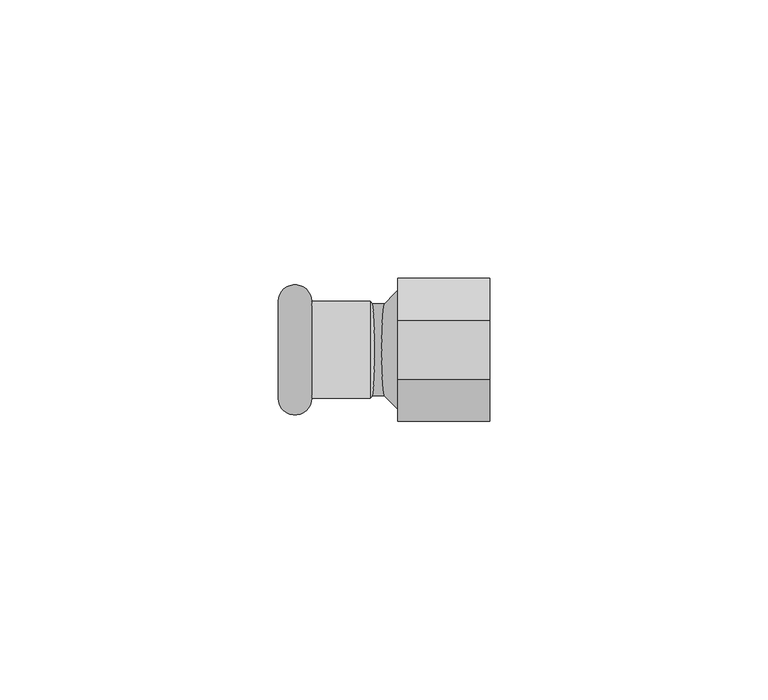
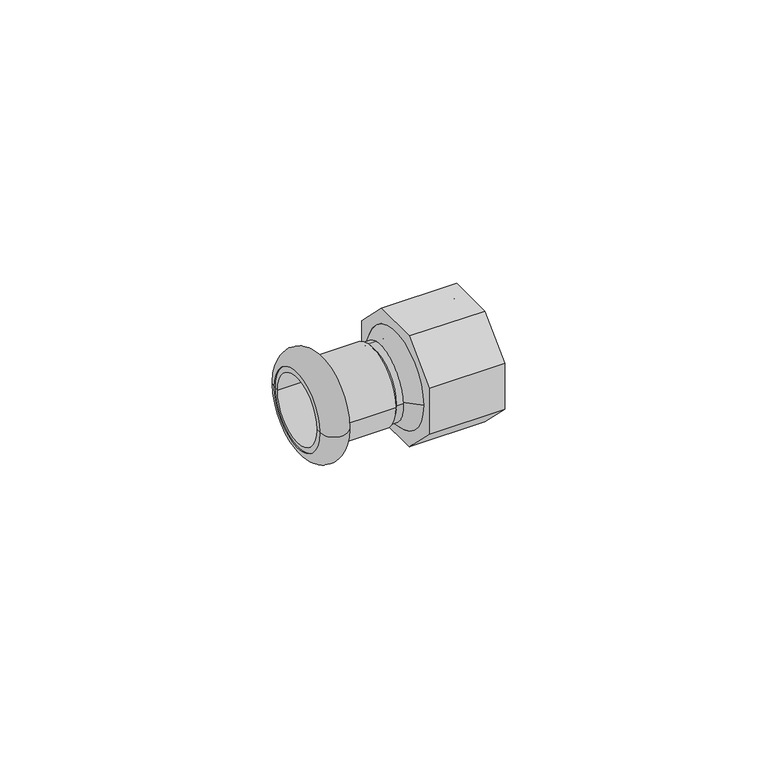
"""IFC4 building model written with IfcOpenShell, lengths in millimetres: pipe fitting geometry."""

from ifc_helpers import new_model, si_unit, point, frame, origin, place, context, project, spatial, polyline, circle_curve, ellipse_curve, trimmed, source, transform, mapped, element, save
from ifc_brep_helpers import plane_surface, cylinder_surface, revolved_surface, advanced_brep


def pipe_fitting_cea77ad7(model_context):
    return source(origin(), model_context, "Body", "AdvancedBrep", [
        advanced_brep(
        [(-19.0, 8.7, 0.0), (-19.0, -8.7, 0.0), (-12.9987073, -8.7, 0.0), (-12.9987073, 8.7, 0.0)],
        [
            (0, 1, circle_curve(frame((-19.0, 0.0, 0.0), z_axis=(-1.0, 0.0, 0.0), x_axis=(0.0, -1.0, 0.0)), 8.7)),
            (1, 2),
            (2, 3, circle_curve(frame((-12.9987073, 0.0, 0.0), z_axis=(1.0, 0.0, 0.0), x_axis=(0.0, -1.0, 0.0)), 8.7)),
            (3, 0),
            (1, 0, circle_curve(frame((-19.0, 0.0, 0.0), z_axis=(-1.0, 0.0, 0.0), x_axis=(0.0, -1.0, 0.0)), 8.7)),
            (3, 2, circle_curve(frame((-12.9987073, 0.0, 0.0), z_axis=(1.0, 0.0, 0.0), x_axis=(0.0, -1.0, 0.0)), 8.7)),
            (2, 1, circle_curve(frame((-15.9993536, -8.7, 0.0), z_axis=(0.0, 0.0, -1.0), x_axis=(-1.0, 0.0, 0.0)), 3.0006464)),
            (0, 3, circle_curve(frame((-15.9993536, 8.7, 0.0), z_axis=(0.0, 0.0, -1.0), x_axis=(-1.0, 0.0, 0.0)), 3.0006464)),
        ],
        [
            revolved_surface(polyline([(-12.9987073, -8.7, 0.0), (-19.0, -8.7, 0.0)]), (-2.5, 0.0, 0.0), (1.0, 0.0, 0.0)),
            revolved_surface(trimmed(ellipse_curve(frame((-15.9993536, -8.7, 0.0), z_axis=(0.0, 0.0, 1.0), x_axis=(-1.0, 0.0, 0.0)), 3.0006464, 3.0006464), [point((-19.0, -8.7, 0.0))], [point((-12.9987073, -8.7, 0.0))], True, "CARTESIAN"), (-2.5, 0.0, 0.0), (1.0, 0.0, 0.0)),
        ],
        [
            (0, [[1, 2, 3, 4]]),
            (0, [[5, -4, 6, -2]]),
            (1, [[-3, 7, -1, 8]]),
            (1, [[-6, -8, -5, -7]]),
        ],
    ),
        advanced_brep(
        [(-19.0, 7.5, 0.0), (-19.0, -7.5, 0.0), (-1.5, -7.5, 0.0), (-1.5, 7.5, 0.0), (-19.0, 8.7, 0.0), (-19.0, -8.7, 0.0), (-2.5, 8.7, 0.0), (-2.5, -8.7, 0.0)],
        [
            (0, 1, circle_curve(frame((-19.0, 0.0, 0.0), z_axis=(-1.0, 0.0, 0.0), x_axis=(0.0, -1.0, 0.0)), 7.5)),
            (1, 2),
            (2, 3, circle_curve(frame((-1.5, 0.0, 0.0), z_axis=(1.0, 0.0, 0.0), x_axis=(0.0, -1.0, 0.0)), 7.5)),
            (3, 0),
            (1, 0, circle_curve(frame((-19.0, 0.0, 0.0), z_axis=(-1.0, 0.0, 0.0), x_axis=(0.0, -1.0, 0.0)), 7.5)),
            (3, 2, circle_curve(frame((-1.5, 0.0, 0.0), z_axis=(1.0, 0.0, 0.0), x_axis=(0.0, -1.0, 0.0)), 7.5)),
            (4, 5, circle_curve(frame((-19.0, 0.0, 0.0), z_axis=(-1.0, 0.0, 0.0), x_axis=(0.0, -1.0, 0.0)), 8.7)),
            (5, 1),
            (0, 4),
            (5, 4, circle_curve(frame((-19.0, 0.0, 0.0), z_axis=(-1.0, 0.0, 0.0), x_axis=(0.0, -1.0, 0.0)), 8.7)),
            (6, 7, circle_curve(frame((-2.5, 0.0, 0.0), z_axis=(-1.0, 0.0, 0.0), x_axis=(0.0, -1.0, 0.0)), 8.7)),
            (7, 5),
            (4, 6),
            (7, 6, circle_curve(frame((-2.5, 0.0, 0.0), z_axis=(-1.0, 0.0, 0.0), x_axis=(0.0, -1.0, 0.0)), 8.7)),
            (2, 7),
            (6, 3),
        ],
        [
            revolved_surface(polyline([(-1.5, -7.5, 0.0), (-19.0, -7.5, 0.0)]), (-2.5, 0.0, 0.0), (1.0, 0.0, 0.0)),
            plane_surface(frame((-19.0, 0.0, 0.0), z_axis=(-1.0, 0.0, 0.0), x_axis=(0.0, -1.0, 0.0))),
            cylinder_surface(frame((-2.5, 0.0, 0.0), z_axis=(1.0, 0.0, 0.0), x_axis=(0.0, -1.0, 0.0)), 8.7),
            revolved_surface(polyline([(-2.5, -8.7, 0.0), (-1.5, -7.5, 0.0)]), (-2.5, 0.0, 0.0), (1.0, 0.0, 0.0)),
        ],
        [
            (0, [[1, 2, 3, 4]]),
            (0, [[5, -4, 6, -2]]),
            (1, [[7, 8, -1, 9]]),
            (1, [[10, -9, -5, -8]]),
            (2, [[11, 12, -7, 13]]),
            (2, [[14, -13, -10, -12]]),
            (3, [[-3, 15, -11, 16]]),
            (3, [[-6, -16, -14, -15]]),
        ],
    ),
        advanced_brep(
        [(19.0, 12.8556872, 5.325), (19.0, 5.325, 12.8556872), (19.0, -5.325, 12.8556872), (19.0, -12.8556872, 5.325), (19.0, -12.8556872, -5.325), (19.0, -5.325, -12.8556872), (19.0, 5.325, -12.8556872), (19.0, 12.8556872, -5.325), (19.0, -10.65, 0.0), (19.0, 10.65, 0.0), (2.5, 12.8556872, 5.325), (2.5, 12.8556872, -5.325), (2.5, 5.325, -12.8556872), (2.5, -5.325, -12.8556872), (2.5, -12.8556872, -5.325), (2.5, -12.8556872, 5.325), (2.5, -5.325, 12.8556872), (2.5, 5.325, 12.8556872), (2.5, -10.6788231, 0.0), (2.5, 10.6788231, 0.0), (2.5, -10.65, 0.0), (2.5, 10.65, 0.0), (2.5, -7.6788231, 0.0), (2.5, 7.6788231, 0.0), (-0.5, -7.6788231, 0.0), (-0.5, 7.6788231, 0.0)],
        [
            (0, 1),
            (1, 2),
            (2, 3),
            (3, 4),
            (4, 5),
            (5, 6),
            (6, 7),
            (7, 0),
            (8, 9, circle_curve(frame((19.0, 0.0, 0.0), z_axis=(-1.0, 0.0, 0.0), x_axis=(0.0, 1.0, 0.0)), 10.65)),
            (9, 8, circle_curve(frame((19.0, 0.0, 0.0), z_axis=(-1.0, 0.0, 0.0), x_axis=(0.0, 1.0, 0.0)), 10.65)),
            (10, 11),
            (11, 12),
            (12, 13),
            (13, 14),
            (14, 15),
            (15, 16),
            (16, 17),
            (17, 10),
            (18, 19, circle_curve(frame((2.5, 0.0, 0.0), z_axis=(1.0, 0.0, 0.0), x_axis=(0.0, 1.0, 0.0)), 10.6788231)),
            (19, 18, circle_curve(frame((2.5, 0.0, 0.0), z_axis=(1.0, 0.0, 0.0), x_axis=(0.0, -1.0, 0.0)), 10.6788231)),
            (8, 20),
            (20, 21, circle_curve(frame((2.5, 0.0, 0.0), z_axis=(-1.0, 0.0, 0.0), x_axis=(0.0, 1.0, 0.0)), 10.65)),
            (21, 9),
            (21, 20, circle_curve(frame((2.5, 0.0, 0.0), z_axis=(-1.0, 0.0, 0.0), x_axis=(0.0, 1.0, 0.0)), 10.65)),
            (0, 10),
            (17, 1),
            (16, 2),
            (15, 3),
            (14, 4),
            (13, 5),
            (12, 6),
            (11, 7),
            (22, 23, circle_curve(frame((2.5, 0.0, 0.0), z_axis=(-1.0, 0.0, 0.0), x_axis=(0.0, -1.0, 0.0)), 7.6788231)),
            (23, 22, circle_curve(frame((2.5, 0.0, 0.0), z_axis=(-1.0, 0.0, 0.0), x_axis=(0.0, 1.0, 0.0)), 7.6788231)),
            (24, 25, circle_curve(frame((-0.5, 0.0, 0.0), z_axis=(1.0, 0.0, 0.0), x_axis=(0.0, 1.0, 0.0)), 7.6788231)),
            (25, 19),
            (18, 24),
            (23, 25),
            (24, 22),
            (25, 24, circle_curve(frame((-0.5, 0.0, 0.0), z_axis=(1.0, 0.0, 0.0), x_axis=(0.0, -1.0, 0.0)), 7.6788231)),
        ],
        [
            plane_surface(frame((19.0, 10.65, 0.0), z_axis=(1.0, 0.0, 0.0), x_axis=(0.0, 0.0, -1.0))),
            plane_surface(frame((2.5, 10.65, 0.0), z_axis=(-1.0, 0.0, 0.0), x_axis=(0.0, 0.0, 1.0))),
            revolved_surface(polyline([(2.5, 10.65, 0.0), (19.0, 10.65, 0.0)]), (2.5, 0.0, 0.0), (-1.0, 0.0, 0.0)),
            plane_surface(frame((19.0, 12.8556872, 5.325), z_axis=(0.0, 0.7071067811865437, 0.7071067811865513), x_axis=(-1.0, 0.0, 0.0))),
            plane_surface(frame((19.0, 5.325, 12.8556872), z_axis=(0.0, 0.0, 1.0), x_axis=(-1.0, 0.0, 0.0))),
            plane_surface(frame((19.0, -5.325, 12.8556872), z_axis=(0.0, -0.7071067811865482, 0.7071067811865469), x_axis=(-1.0, 0.0, 0.0))),
            plane_surface(frame((19.0, -12.8556872, 5.325), z_axis=(0.0, -1.0, 0.0), x_axis=(-1.0, 0.0, 0.0))),
            plane_surface(frame((19.0, -12.8556872, -5.325), z_axis=(0.0, -0.7071067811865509, -0.7071067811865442), x_axis=(-1.0, 0.0, 0.0))),
            plane_surface(frame((19.0, -5.325, -12.8556872), z_axis=(0.0, 0.0, -1.0), x_axis=(-1.0, 0.0, 0.0))),
            plane_surface(frame((19.0, 5.325, -12.8556872), z_axis=(0.0, 0.7071067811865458, -0.7071067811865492), x_axis=(-1.0, 0.0, 0.0))),
            plane_surface(frame((19.0, 12.8556872, -5.325), z_axis=(0.0, 1.0, 0.0), x_axis=(-1.0, 0.0, 0.0))),
            plane_surface(frame((2.5, 0.0, 0.0), z_axis=(1.0, 0.0, 0.0), x_axis=(0.0, -1.0, 0.0))),
            revolved_surface(polyline([(2.5, 10.6788231, 0.0), (-0.5, 7.6788231, 0.0)]), (2.5, 0.0, 0.0), (-1.0, 0.0, 0.0)),
            revolved_surface(polyline([(-0.5, 7.6788231, 0.0), (2.5, 7.6788231, 0.0)]), (2.5, 0.0, 0.0), (-1.0, 0.0, 0.0)),
            revolved_surface(polyline([(2.5, -10.6788231, 0.0), (-0.5, -7.6788231, 0.0)]), (2.5, 0.0, 0.0), (-1.0, 0.0, 0.0)),
            revolved_surface(polyline([(-0.5, -7.6788231, 0.0), (2.5, -7.6788231, 0.0)]), (2.5, 0.0, 0.0), (-1.0, 0.0, 0.0)),
        ],
        [
            (0, [[1, 2, 3, 4, 5, 6, 7, 8], [9, 10]]),
            (1, [[11, 12, 13, 14, 15, 16, 17, 18], [19, 20]]),
            (2, [[-9, 21, 22, 23]]),
            (2, [[-10, -23, 24, -21]]),
            (3, [[-1, 25, -18, 26]]),
            (4, [[-2, -26, -17, 27]]),
            (5, [[-3, -27, -16, 28]]),
            (6, [[-4, -28, -15, 29]]),
            (7, [[-5, -29, -14, 30]]),
            (8, [[-6, -30, -13, 31]]),
            (9, [[-7, -31, -12, 32]]),
            (10, [[-8, -32, -11, -25]]),
            (11, [[-22, -24], [33, 34]]),
            (12, [[35, 36, -19, 37]]),
            (13, [[-34, 38, -35, 39]]),
            (14, [[-36, 40, -37, -20]]),
            (15, [[-33, -39, -40, -38]]),
        ],
    ),
        advanced_brep(
        [(-2.5, -8.25, 0.0), (-2.5, 8.25, 0.0), (2.5, 8.25, 0.0), (2.5, -8.25, 0.0), (-2.5, 0.0, 0.0), (2.5, 0.0, 0.0)],
        [
            (0, 1, circle_curve(frame((-2.5, 0.0, 0.0), z_axis=(1.0, 0.0, 0.0), x_axis=(0.0, 1.0, 0.0)), 8.25)),
            (1, 2),
            (2, 3, circle_curve(frame((2.5, 0.0, 0.0), z_axis=(-1.0, 0.0, 0.0), x_axis=(0.0, 1.0, 0.0)), 8.25)),
            (3, 0),
            (1, 0, circle_curve(frame((-2.5, 0.0, 0.0), z_axis=(1.0, 0.0, 0.0), x_axis=(0.0, 1.0, 0.0)), 8.25)),
            (3, 2, circle_curve(frame((2.5, 0.0, 0.0), z_axis=(-1.0, 0.0, 0.0), x_axis=(0.0, 1.0, 0.0)), 8.25)),
            (4, 1),
            (0, 4),
            (2, 5),
            (5, 3),
        ],
        [
            cylinder_surface(frame((-2.5, 0.0, 0.0), z_axis=(-1.0, 0.0, 0.0), x_axis=(0.0, 1.0, 0.0)), 8.25),
            plane_surface(frame((-2.5, 0.0, 0.0), z_axis=(-1.0, 0.0, 0.0), x_axis=(0.0, 1.0, 0.0))),
            plane_surface(frame((2.5, 0.0, 0.0), z_axis=(1.0, 0.0, 0.0), x_axis=(0.0, 1.0, 0.0))),
        ],
        [
            (0, [[1, 2, 3, 4]]),
            (0, [[5, -4, 6, -2]]),
            (1, [[7, -1, 8]]),
            (1, [[-8, -5, -7]]),
            (2, [[-3, 9, 10]]),
            (2, [[-6, -10, -9]]),
        ],
    ),
    ])


if __name__ == "__main__":
    model = new_model("IFC4")
    model_context = context("Model", 3, world=origin())
    ifc_project = project(units=[si_unit("LENGTHUNIT", "METRE", prefix="MILLI")], contexts=[model_context])
    site = spatial("IfcSite", under=ifc_project)
    building = spatial("IfcBuilding", under=site)
    placement = place(None, origin())
    pipe_fitting_shape = pipe_fitting_cea77ad7(model_context)
    element("IfcPipeFitting", 1, ObjectType="NLRS_50_PIF_UN_Mapress koper overgang met binnendraad_geb : DN10-50-Rp2\" / d12-54-Rp2\"", at=placement, inside=building, context=model_context, shape_type="MappedRepresentation", body=[
        mapped(pipe_fitting_shape, transform((0.0, 0.0, 0.0), x_axis=(1.0, 0.0, 0.0), y_axis=(0.0, 1.0, 0.0), z_axis=(0.0, 0.0, 1.0))),
    ])
    save(model, "model.ifc")
